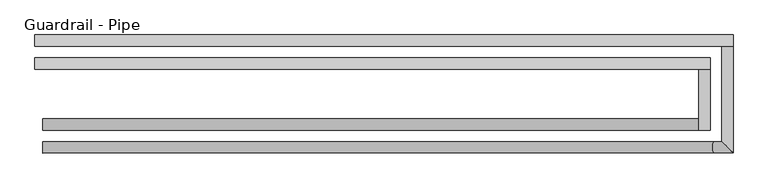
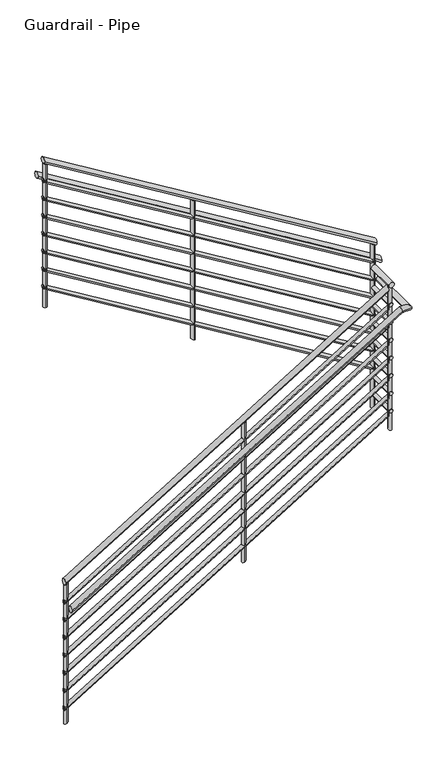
"""IFC4 building model written with IfcOpenShell, lengths in millimetres: railing geometry, Guardrail - Pipe."""

from ifc_helpers import new_model, si_unit, frame, origin, place, context, project, spatial, circle_curve, ellipse_curve, source, transform, mapped, element, save
from ifc_brep_helpers import plane_surface, cylinder_surface, advanced_brep


def guardrail_pipe_215c56c1(model_context):
    return source(origin(), model_context, "Body", "AdvancedBrep", [
        advanced_brep(
        [(-2909.3516552, 9300.527236, 1214.5008594), (-2909.3516552, 9338.627236, 1214.5008594), (-718.6016552, 9300.527236, 2547.4554048), (-718.6016552, 9338.627236, 2547.4554048)],
        [
            (0, 1, ellipse_curve(frame((-2909.3516552, 9319.577236, 1214.5008594), z_axis=(-1.0, 0.0, 0.0), x_axis=(0.0, 0.0, -1.0)), 22.2991406, 19.05)),
            (1, 0, ellipse_curve(frame((-2909.3516552, 9319.577236, 1214.5008594), z_axis=(-1.0, 0.0, 0.0), x_axis=(0.0, 0.0, -1.0)), 22.2991406, 19.05)),
            (2, 3, ellipse_curve(frame((-718.6016552, 9319.577236, 2547.4554048), z_axis=(1.0, 0.0, 0.0), x_axis=(0.0, 0.0, -1.0)), 22.2991406, 19.05)),
            (3, 2, ellipse_curve(frame((-718.6016552, 9319.577236, 2547.4554048), z_axis=(1.0, 0.0, 0.0), x_axis=(0.0, 0.0, -1.0)), 22.2991406, 19.05)),
            (0, 2),
            (3, 1),
        ],
        [
            plane_surface(frame((-2909.3516552, 9319.577236, 1236.8), z_axis=(-1.0, 0.0, 0.0), x_axis=(0.0, 1.0, 0.0))),
            plane_surface(frame((-718.6016552, 9319.577236, 2569.7545455), z_axis=(1.0, 0.0, 0.0), x_axis=(0.0, 1.0, 0.0))),
            cylinder_surface(frame((-2899.4496225, 9319.577236, 1220.5257181), z_axis=(-0.8542930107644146, 0.0, -0.5197917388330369), x_axis=(0.0, 1.0, 0.0)), 19.05),
        ],
        [
            (0, [[1, 2]]),
            (1, [[3, 4]]),
            (2, [[-1, 5, -4, 6]]),
            (2, [[-2, -6, -3, -5]]),
        ],
    ),
        advanced_brep(
        [(-680.5016552, 9300.527236, 2577.75), (-718.6016552, 9300.527236, 2577.75), (-680.5016552, 9503.727236, 2577.75), (-718.6016552, 9503.727236, 2577.75)],
        [
            (0, 1, circle_curve(frame((-699.5516552, 9300.527236, 2577.75), z_axis=(0.0, -1.0, 0.0), x_axis=(-1.0, 0.0, 0.0)), 19.05)),
            (1, 0, circle_curve(frame((-699.5516552, 9300.527236, 2577.75), z_axis=(0.0, -1.0, 0.0), x_axis=(-1.0, 0.0, 0.0)), 19.05)),
            (2, 3, circle_curve(frame((-699.5516552, 9503.727236, 2577.75), z_axis=(0.0, 1.0, 0.0), x_axis=(-1.0, 0.0, 0.0)), 19.05)),
            (3, 2, circle_curve(frame((-699.5516552, 9503.727236, 2577.75), z_axis=(0.0, 1.0, 0.0), x_axis=(-1.0, 0.0, 0.0)), 19.05)),
            (0, 2),
            (3, 1),
        ],
        [
            plane_surface(frame((-699.5516552, 9300.527236, 2596.8), z_axis=(0.0, -1.0, 0.0), x_axis=(0.0, 0.0, 1.0))),
            plane_surface(frame((-699.5516552, 9503.727236, 2596.8), z_axis=(0.0, 1.0, 0.0), x_axis=(0.0, 0.0, 1.0))),
            cylinder_surface(frame((-699.5516552, 9300.527236, 2577.75), z_axis=(0.0, -1.0, 0.0), x_axis=(-1.0, 0.0, 0.0)), 19.05),
        ],
        [
            (0, [[1, 2]]),
            (1, [[3, 4]]),
            (2, [[-1, 5, -4, 6]]),
            (2, [[-2, -6, -3, -5]]),
        ],
    ),
        advanced_brep(
        [(-680.5016552, 9541.827236, 2748.3644957), (-680.5016552, 9503.727236, 2748.3644957), (-2934.7516552, 9541.827236, 4119.9554048), (-2934.7516552, 9503.727236, 4119.9554048)],
        [
            (0, 1, ellipse_curve(frame((-680.5016552, 9522.777236, 2748.3644957), z_axis=(1.0, 0.0, 0.0), x_axis=(0.0, 0.0, -1.0)), 22.2991406, 19.05)),
            (1, 0, ellipse_curve(frame((-680.5016552, 9522.777236, 2748.3644957), z_axis=(1.0, 0.0, 0.0), x_axis=(0.0, 0.0, -1.0)), 22.2991406, 19.05)),
            (2, 3, ellipse_curve(frame((-2934.7516552, 9522.777236, 4119.9554048), z_axis=(-1.0, 0.0, 0.0), x_axis=(0.0, 0.0, -1.0)), 22.2991406, 19.05)),
            (3, 2, ellipse_curve(frame((-2934.7516552, 9522.777236, 4119.9554048), z_axis=(-1.0, 0.0, 0.0), x_axis=(0.0, 0.0, -1.0)), 22.2991406, 19.05)),
            (0, 2),
            (3, 1),
        ],
        [
            plane_surface(frame((-680.5016552, 9522.777236, 2770.6636364), z_axis=(1.0, 0.0, 0.0), x_axis=(0.0, -1.0, 0.0))),
            plane_surface(frame((-2934.7516552, 9522.777236, 4142.2545455), z_axis=(-1.0, 0.0, 0.0), x_axis=(0.0, -1.0, 0.0))),
            cylinder_surface(frame((-690.4036878, 9522.777236, 2754.3893545), z_axis=(0.8542930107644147, 0.0, -0.5197917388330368), x_axis=(0.0, -1.0, 0.0)), 19.05),
        ],
        [
            (0, [[1, 2]]),
            (1, [[3, 4]]),
            (2, [[-1, 5, -4, 6]]),
            (2, [[-2, -6, -3, -5]]),
        ],
    ),
        advanced_brep(
        [(-2909.3516552, 9306.877236, 1069.5339062), (-2909.3516552, 9332.277236, 1069.5339062), (-712.2516552, 9306.877236, 2406.3520881), (-712.2516552, 9332.277236, 2406.3520881)],
        [
            (0, 1, ellipse_curve(frame((-2909.3516552, 9319.577236, 1069.5339062), z_axis=(-1.0, 0.0, 0.0), x_axis=(0.0, 0.0, -1.0)), 14.8660938, 12.7)),
            (1, 0, ellipse_curve(frame((-2909.3516552, 9319.577236, 1069.5339062), z_axis=(-1.0, 0.0, 0.0), x_axis=(0.0, 0.0, -1.0)), 14.8660938, 12.7)),
            (2, 3, ellipse_curve(frame((-712.2516552, 9319.577236, 2406.3520881), z_axis=(1.0, 0.0, 0.0), x_axis=(0.0, 0.0, -1.0)), 14.8660938, 12.7)),
            (3, 2, ellipse_curve(frame((-712.2516552, 9319.577236, 2406.3520881), z_axis=(1.0, 0.0, 0.0), x_axis=(0.0, 0.0, -1.0)), 14.8660938, 12.7)),
            (0, 2),
            (3, 1),
        ],
        [
            plane_surface(frame((-2909.3516552, 9319.577236, 1084.4), z_axis=(-1.0, 0.0, 0.0), x_axis=(0.0, 1.0, 0.0))),
            plane_surface(frame((-712.2516552, 9319.577236, 2421.2181818), z_axis=(1.0, 0.0, 0.0), x_axis=(0.0, 1.0, 0.0))),
            cylinder_surface(frame((-2902.7503001, 9319.577236, 1073.5504788), z_axis=(-0.8542930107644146, 0.0, -0.5197917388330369), x_axis=(0.0, 1.0, 0.0)), 12.7),
        ],
        [
            (0, [[1, 2]]),
            (1, [[3, 4]]),
            (2, [[-1, 5, -4, 6]]),
            (2, [[-2, -6, -3, -5]]),
        ],
    ),
        advanced_brep(
        [(-686.8516552, 9306.877236, 2431.7), (-712.2516552, 9306.877236, 2431.7), (-686.8516552, 9510.077236, 2431.7), (-712.2516552, 9510.077236, 2431.7)],
        [
            (0, 1, circle_curve(frame((-699.5516552, 9306.877236, 2431.7), z_axis=(0.0, -1.0, 0.0), x_axis=(-1.0, 0.0, 0.0)), 12.7)),
            (1, 0, circle_curve(frame((-699.5516552, 9306.877236, 2431.7), z_axis=(0.0, -1.0, 0.0), x_axis=(-1.0, 0.0, 0.0)), 12.7)),
            (2, 3, circle_curve(frame((-699.5516552, 9510.077236, 2431.7), z_axis=(0.0, 1.0, 0.0), x_axis=(-1.0, 0.0, 0.0)), 12.7)),
            (3, 2, circle_curve(frame((-699.5516552, 9510.077236, 2431.7), z_axis=(0.0, 1.0, 0.0), x_axis=(-1.0, 0.0, 0.0)), 12.7)),
            (0, 2),
            (3, 1),
        ],
        [
            plane_surface(frame((-699.5516552, 9306.877236, 2444.4), z_axis=(0.0, -1.0, 0.0), x_axis=(0.0, 0.0, 1.0))),
            plane_surface(frame((-699.5516552, 9510.077236, 2444.4), z_axis=(0.0, 1.0, 0.0), x_axis=(0.0, 0.0, 1.0))),
            cylinder_surface(frame((-699.5516552, 9306.877236, 2431.7), z_axis=(0.0, -1.0, 0.0), x_axis=(-1.0, 0.0, 0.0)), 12.7),
        ],
        [
            (0, [[1, 2]]),
            (1, [[3, 4]]),
            (2, [[-1, 5, -4, 6]]),
            (2, [[-2, -6, -3, -5]]),
        ],
    ),
        advanced_brep(
        [(-686.8516552, 9535.477236, 2607.261179), (-686.8516552, 9510.077236, 2607.261179), (-2934.7516552, 9535.477236, 3974.9884517), (-2934.7516552, 9510.077236, 3974.9884517)],
        [
            (0, 1, ellipse_curve(frame((-686.8516552, 9522.777236, 2607.261179), z_axis=(1.0, 0.0, 0.0), x_axis=(0.0, 0.0, -1.0)), 14.8660938, 12.7)),
            (1, 0, ellipse_curve(frame((-686.8516552, 9522.777236, 2607.261179), z_axis=(1.0, 0.0, 0.0), x_axis=(0.0, 0.0, -1.0)), 14.8660938, 12.7)),
            (2, 3, ellipse_curve(frame((-2934.7516552, 9522.777236, 3974.9884517), z_axis=(-1.0, 0.0, 0.0), x_axis=(0.0, 0.0, -1.0)), 14.8660938, 12.7)),
            (3, 2, ellipse_curve(frame((-2934.7516552, 9522.777236, 3974.9884517), z_axis=(-1.0, 0.0, 0.0), x_axis=(0.0, 0.0, -1.0)), 14.8660938, 12.7)),
            (0, 2),
            (3, 1),
        ],
        [
            plane_surface(frame((-686.8516552, 9522.777236, 2622.1272727), z_axis=(1.0, 0.0, 0.0), x_axis=(0.0, -1.0, 0.0))),
            plane_surface(frame((-2934.7516552, 9522.777236, 3989.8545455), z_axis=(-1.0, 0.0, 0.0), x_axis=(0.0, -1.0, 0.0))),
            cylinder_surface(frame((-693.4530103, 9522.777236, 2611.2777515), z_axis=(0.8542930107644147, 0.0, -0.5197917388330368), x_axis=(0.0, -1.0, 0.0)), 12.7),
        ],
        [
            (0, [[1, 2]]),
            (1, [[3, 4]]),
            (2, [[-1, 5, -4, 6]]),
            (2, [[-2, -6, -3, -5]]),
        ],
    ),
        advanced_brep(
        [(-2909.3516552, 9224.327236, 1062.1008594), (-2909.3516552, 9262.427236, 1062.1008594), (-668.811597, 9224.327236, 2425.35), (-668.811597, 9262.427236, 2425.35), (-604.3016552, 9224.327236, 2425.35), (-642.4016552, 9262.427236, 2425.35), (-604.3016552, 9579.927236, 2425.35), (-642.4016552, 9579.927236, 2425.35)],
        [
            (0, 1, ellipse_curve(frame((-2909.3516552, 9243.377236, 1062.1008594), z_axis=(-1.0, 0.0, 0.0), x_axis=(0.0, 0.0, -1.0)), 22.2991406, 19.05)),
            (1, 0, ellipse_curve(frame((-2909.3516552, 9243.377236, 1062.1008594), z_axis=(-1.0, 0.0, 0.0), x_axis=(0.0, 0.0, -1.0)), 22.2991406, 19.05)),
            (0, 2),
            (2, 3, ellipse_curve(frame((-668.811597, 9243.377236, 2425.35), z_axis=(-0.9628844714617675, 0.0, -0.2699138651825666), x_axis=(0.2699138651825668, 0.0, -0.9628844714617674)), 19.7843049, 19.05)),
            (3, 1),
            (3, 2, ellipse_curve(frame((-668.811597, 9243.377236, 2425.35), z_axis=(-0.9628844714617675, 0.0, -0.2699138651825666), x_axis=(0.2699138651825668, 0.0, -0.9628844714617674)), 19.7843049, 19.05)),
            (2, 4),
            (4, 5, ellipse_curve(frame((-623.3516552, 9243.377236, 2425.35), z_axis=(-0.7071067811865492, -0.7071067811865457, 0.0), x_axis=(-0.7071067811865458, 0.7071067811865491, 0.0)), 26.9407684, 19.05)),
            (5, 3),
            (5, 4, ellipse_curve(frame((-623.3516552, 9243.377236, 2425.35), z_axis=(-0.7071067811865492, -0.7071067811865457, 0.0), x_axis=(-0.7071067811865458, 0.7071067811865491, 0.0)), 26.9407684, 19.05)),
            (6, 7, circle_curve(frame((-623.3516552, 9579.927236, 2425.35), z_axis=(0.0, 1.0, 0.0), x_axis=(-1.0, 0.0, 0.0)), 19.05)),
            (7, 6, circle_curve(frame((-623.3516552, 9579.927236, 2425.35), z_axis=(0.0, 1.0, 0.0), x_axis=(-1.0, 0.0, 0.0)), 19.05)),
            (4, 6),
            (7, 5),
        ],
        [
            plane_surface(frame((-2909.3516552, 9243.377236, 1084.4), z_axis=(-1.0, 0.0, 0.0), x_axis=(0.0, 1.0, 0.0))),
            cylinder_surface(frame((-2899.4496225, 9243.377236, 1068.1257181), z_axis=(-0.8542930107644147, 0.0, -0.5197917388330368), x_axis=(0.0, 1.0, 0.0)), 19.05),
            cylinder_surface(frame((-674.1516552, 9243.377236, 2425.35), z_axis=(-1.0, 0.0, 0.0), x_axis=(0.0, 1.0, 0.0)), 19.05),
            plane_surface(frame((-623.3516552, 9579.927236, 2444.4), z_axis=(0.0, 1.0, 0.0), x_axis=(0.0, 0.0, 1.0))),
            cylinder_surface(frame((-623.3516552, 9243.377236, 2425.35), z_axis=(0.0, -1.0, 0.0), x_axis=(-1.0, 0.0, 0.0)), 19.05),
        ],
        [
            (0, [[1, 2]]),
            (1, [[-1, 3, 4, 5]]),
            (1, [[-2, -5, 6, -3]]),
            (2, [[-4, 7, 8, 9]]),
            (2, [[-6, -9, 10, -7]]),
            (3, [[11, 12]]),
            (4, [[-8, 13, -12, 14]]),
            (4, [[-10, -14, -11, -13]]),
        ],
    ),
        advanced_brep(
        [(-604.3016552, 9618.027236, 2549.6008594), (-604.3016552, 9579.927236, 2549.6008594), (-2934.7516552, 9618.027236, 3967.5554048), (-2934.7516552, 9579.927236, 3967.5554048)],
        [
            (0, 1, ellipse_curve(frame((-604.3016552, 9598.977236, 2549.6008594), z_axis=(1.0, 0.0, 0.0), x_axis=(0.0, 0.0, -1.0)), 22.2991406, 19.05)),
            (1, 0, ellipse_curve(frame((-604.3016552, 9598.977236, 2549.6008594), z_axis=(1.0, 0.0, 0.0), x_axis=(0.0, 0.0, -1.0)), 22.2991406, 19.05)),
            (2, 3, ellipse_curve(frame((-2934.7516552, 9598.977236, 3967.5554048), z_axis=(-1.0, 0.0, 0.0), x_axis=(0.0, 0.0, -1.0)), 22.2991406, 19.05)),
            (3, 2, ellipse_curve(frame((-2934.7516552, 9598.977236, 3967.5554048), z_axis=(-1.0, 0.0, 0.0), x_axis=(0.0, 0.0, -1.0)), 22.2991406, 19.05)),
            (0, 2),
            (3, 1),
        ],
        [
            plane_surface(frame((-604.3016552, 9598.977236, 2571.9), z_axis=(1.0, 0.0, 0.0), x_axis=(0.0, -1.0, 0.0))),
            plane_surface(frame((-2934.7516552, 9598.977236, 3989.8545455), z_axis=(-1.0, 0.0, 0.0), x_axis=(0.0, -1.0, 0.0))),
            cylinder_surface(frame((-614.2036878, 9598.977236, 2555.6257181), z_axis=(0.8542930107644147, 0.0, -0.5197917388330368), x_axis=(0.0, -1.0, 0.0)), 19.05),
        ],
        [
            (0, [[1, 2]]),
            (1, [[3, 4]]),
            (2, [[-1, 5, -4, 6]]),
            (2, [[-2, -6, -3, -5]]),
        ],
    ),
        advanced_brep(
        [(-2909.3516552, 9306.877236, 942.5339062), (-2909.3516552, 9332.277236, 942.5339062), (-712.2516552, 9306.877236, 2279.3520881), (-712.2516552, 9332.277236, 2279.3520881)],
        [
            (0, 1, ellipse_curve(frame((-2909.3516552, 9319.577236, 942.5339062), z_axis=(-1.0, 0.0, 0.0), x_axis=(0.0, 0.0, -1.0)), 14.8660938, 12.7)),
            (1, 0, ellipse_curve(frame((-2909.3516552, 9319.577236, 942.5339062), z_axis=(-1.0, 0.0, 0.0), x_axis=(0.0, 0.0, -1.0)), 14.8660938, 12.7)),
            (2, 3, ellipse_curve(frame((-712.2516552, 9319.577236, 2279.3520881), z_axis=(1.0, 0.0, 0.0), x_axis=(0.0, 0.0, -1.0)), 14.8660938, 12.7)),
            (3, 2, ellipse_curve(frame((-712.2516552, 9319.577236, 2279.3520881), z_axis=(1.0, 0.0, 0.0), x_axis=(0.0, 0.0, -1.0)), 14.8660938, 12.7)),
            (0, 2),
            (3, 1),
        ],
        [
            plane_surface(frame((-2909.3516552, 9319.577236, 957.4), z_axis=(-1.0, 0.0, 0.0), x_axis=(0.0, 1.0, 0.0))),
            plane_surface(frame((-712.2516552, 9319.577236, 2294.2181818), z_axis=(1.0, 0.0, 0.0), x_axis=(0.0, 1.0, 0.0))),
            cylinder_surface(frame((-2902.7503001, 9319.577236, 946.5504788), z_axis=(-0.8542930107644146, 0.0, -0.5197917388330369), x_axis=(0.0, 1.0, 0.0)), 12.7),
        ],
        [
            (0, [[1, 2]]),
            (1, [[3, 4]]),
            (2, [[-1, 5, -4, 6]]),
            (2, [[-2, -6, -3, -5]]),
        ],
    ),
        advanced_brep(
        [(-686.8516552, 9306.877236, 2304.7), (-712.2516552, 9306.877236, 2304.7), (-686.8516552, 9510.077236, 2304.7), (-712.2516552, 9510.077236, 2304.7)],
        [
            (0, 1, circle_curve(frame((-699.5516552, 9306.877236, 2304.7), z_axis=(0.0, -1.0, 0.0), x_axis=(-1.0, 0.0, 0.0)), 12.7)),
            (1, 0, circle_curve(frame((-699.5516552, 9306.877236, 2304.7), z_axis=(0.0, -1.0, 0.0), x_axis=(-1.0, 0.0, 0.0)), 12.7)),
            (2, 3, circle_curve(frame((-699.5516552, 9510.077236, 2304.7), z_axis=(0.0, 1.0, 0.0), x_axis=(-1.0, 0.0, 0.0)), 12.7)),
            (3, 2, circle_curve(frame((-699.5516552, 9510.077236, 2304.7), z_axis=(0.0, 1.0, 0.0), x_axis=(-1.0, 0.0, 0.0)), 12.7)),
            (0, 2),
            (3, 1),
        ],
        [
            plane_surface(frame((-699.5516552, 9306.877236, 2317.4), z_axis=(0.0, -1.0, 0.0), x_axis=(0.0, 0.0, 1.0))),
            plane_surface(frame((-699.5516552, 9510.077236, 2317.4), z_axis=(0.0, 1.0, 0.0), x_axis=(0.0, 0.0, 1.0))),
            cylinder_surface(frame((-699.5516552, 9306.877236, 2304.7), z_axis=(0.0, -1.0, 0.0), x_axis=(-1.0, 0.0, 0.0)), 12.7),
        ],
        [
            (0, [[1, 2]]),
            (1, [[3, 4]]),
            (2, [[-1, 5, -4, 6]]),
            (2, [[-2, -6, -3, -5]]),
        ],
    ),
        advanced_brep(
        [(-686.8516552, 9535.477236, 2480.261179), (-686.8516552, 9510.077236, 2480.261179), (-2934.7516552, 9535.477236, 3847.9884517), (-2934.7516552, 9510.077236, 3847.9884517)],
        [
            (0, 1, ellipse_curve(frame((-686.8516552, 9522.777236, 2480.261179), z_axis=(1.0, 0.0, 0.0), x_axis=(0.0, 0.0, -1.0)), 14.8660938, 12.7)),
            (1, 0, ellipse_curve(frame((-686.8516552, 9522.777236, 2480.261179), z_axis=(1.0, 0.0, 0.0), x_axis=(0.0, 0.0, -1.0)), 14.8660938, 12.7)),
            (2, 3, ellipse_curve(frame((-2934.7516552, 9522.777236, 3847.9884517), z_axis=(-1.0, 0.0, 0.0), x_axis=(0.0, 0.0, -1.0)), 14.8660938, 12.7)),
            (3, 2, ellipse_curve(frame((-2934.7516552, 9522.777236, 3847.9884517), z_axis=(-1.0, 0.0, 0.0), x_axis=(0.0, 0.0, -1.0)), 14.8660938, 12.7)),
            (0, 2),
            (3, 1),
        ],
        [
            plane_surface(frame((-686.8516552, 9522.777236, 2495.1272727), z_axis=(1.0, 0.0, 0.0), x_axis=(0.0, -1.0, 0.0))),
            plane_surface(frame((-2934.7516552, 9522.777236, 3862.8545455), z_axis=(-1.0, 0.0, 0.0), x_axis=(0.0, -1.0, 0.0))),
            cylinder_surface(frame((-693.4530103, 9522.777236, 2484.2777515), z_axis=(0.8542930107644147, 0.0, -0.5197917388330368), x_axis=(0.0, -1.0, 0.0)), 12.7),
        ],
        [
            (0, [[1, 2]]),
            (1, [[3, 4]]),
            (2, [[-1, 5, -4, 6]]),
            (2, [[-2, -6, -3, -5]]),
        ],
    ),
        advanced_brep(
        [(-2909.3516552, 9306.877236, 815.5339062), (-2909.3516552, 9332.277236, 815.5339062), (-712.2516552, 9306.877236, 2152.3520881), (-712.2516552, 9332.277236, 2152.3520881)],
        [
            (0, 1, ellipse_curve(frame((-2909.3516552, 9319.577236, 815.5339062), z_axis=(-1.0, 0.0, 0.0), x_axis=(0.0, 0.0, -1.0)), 14.8660938, 12.7)),
            (1, 0, ellipse_curve(frame((-2909.3516552, 9319.577236, 815.5339062), z_axis=(-1.0, 0.0, 0.0), x_axis=(0.0, 0.0, -1.0)), 14.8660938, 12.7)),
            (2, 3, ellipse_curve(frame((-712.2516552, 9319.577236, 2152.3520881), z_axis=(1.0, 0.0, 0.0), x_axis=(0.0, 0.0, -1.0)), 14.8660938, 12.7)),
            (3, 2, ellipse_curve(frame((-712.2516552, 9319.577236, 2152.3520881), z_axis=(1.0, 0.0, 0.0), x_axis=(0.0, 0.0, -1.0)), 14.8660938, 12.7)),
            (0, 2),
            (3, 1),
        ],
        [
            plane_surface(frame((-2909.3516552, 9319.577236, 830.4), z_axis=(-1.0, 0.0, 0.0), x_axis=(0.0, 1.0, 0.0))),
            plane_surface(frame((-712.2516552, 9319.577236, 2167.2181818), z_axis=(1.0, 0.0, 0.0), x_axis=(0.0, 1.0, 0.0))),
            cylinder_surface(frame((-2902.7503001, 9319.577236, 819.5504788), z_axis=(-0.8542930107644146, 0.0, -0.5197917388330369), x_axis=(0.0, 1.0, 0.0)), 12.7),
        ],
        [
            (0, [[1, 2]]),
            (1, [[3, 4]]),
            (2, [[-1, 5, -4, 6]]),
            (2, [[-2, -6, -3, -5]]),
        ],
    ),
        advanced_brep(
        [(-686.8516552, 9306.877236, 2177.7), (-712.2516552, 9306.877236, 2177.7), (-686.8516552, 9510.077236, 2177.7), (-712.2516552, 9510.077236, 2177.7)],
        [
            (0, 1, circle_curve(frame((-699.5516552, 9306.877236, 2177.7), z_axis=(0.0, -1.0, 0.0), x_axis=(-1.0, 0.0, 0.0)), 12.7)),
            (1, 0, circle_curve(frame((-699.5516552, 9306.877236, 2177.7), z_axis=(0.0, -1.0, 0.0), x_axis=(-1.0, 0.0, 0.0)), 12.7)),
            (2, 3, circle_curve(frame((-699.5516552, 9510.077236, 2177.7), z_axis=(0.0, 1.0, 0.0), x_axis=(-1.0, 0.0, 0.0)), 12.7)),
            (3, 2, circle_curve(frame((-699.5516552, 9510.077236, 2177.7), z_axis=(0.0, 1.0, 0.0), x_axis=(-1.0, 0.0, 0.0)), 12.7)),
            (0, 2),
            (3, 1),
        ],
        [
            plane_surface(frame((-699.5516552, 9306.877236, 2190.4), z_axis=(0.0, -1.0, 0.0), x_axis=(0.0, 0.0, 1.0))),
            plane_surface(frame((-699.5516552, 9510.077236, 2190.4), z_axis=(0.0, 1.0, 0.0), x_axis=(0.0, 0.0, 1.0))),
            cylinder_surface(frame((-699.5516552, 9306.877236, 2177.7), z_axis=(0.0, -1.0, 0.0), x_axis=(-1.0, 0.0, 0.0)), 12.7),
        ],
        [
            (0, [[1, 2]]),
            (1, [[3, 4]]),
            (2, [[-1, 5, -4, 6]]),
            (2, [[-2, -6, -3, -5]]),
        ],
    ),
        advanced_brep(
        [(-686.8516552, 9535.477236, 2353.261179), (-686.8516552, 9510.077236, 2353.261179), (-2934.7516552, 9535.477236, 3720.9884517), (-2934.7516552, 9510.077236, 3720.9884517)],
        [
            (0, 1, ellipse_curve(frame((-686.8516552, 9522.777236, 2353.261179), z_axis=(1.0, 0.0, 0.0), x_axis=(0.0, 0.0, -1.0)), 14.8660938, 12.7)),
            (1, 0, ellipse_curve(frame((-686.8516552, 9522.777236, 2353.261179), z_axis=(1.0, 0.0, 0.0), x_axis=(0.0, 0.0, -1.0)), 14.8660938, 12.7)),
            (2, 3, ellipse_curve(frame((-2934.7516552, 9522.777236, 3720.9884517), z_axis=(-1.0, 0.0, 0.0), x_axis=(0.0, 0.0, -1.0)), 14.8660938, 12.7)),
            (3, 2, ellipse_curve(frame((-2934.7516552, 9522.777236, 3720.9884517), z_axis=(-1.0, 0.0, 0.0), x_axis=(0.0, 0.0, -1.0)), 14.8660938, 12.7)),
            (0, 2),
            (3, 1),
        ],
        [
            plane_surface(frame((-686.8516552, 9522.777236, 2368.1272727), z_axis=(1.0, 0.0, 0.0), x_axis=(0.0, -1.0, 0.0))),
            plane_surface(frame((-2934.7516552, 9522.777236, 3735.8545455), z_axis=(-1.0, 0.0, 0.0), x_axis=(0.0, -1.0, 0.0))),
            cylinder_surface(frame((-693.4530103, 9522.777236, 2357.2777515), z_axis=(0.8542930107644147, 0.0, -0.5197917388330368), x_axis=(0.0, -1.0, 0.0)), 12.7),
        ],
        [
            (0, [[1, 2]]),
            (1, [[3, 4]]),
            (2, [[-1, 5, -4, 6]]),
            (2, [[-2, -6, -3, -5]]),
        ],
    ),
        advanced_brep(
        [(-2909.3516552, 9306.877236, 688.5339062), (-2909.3516552, 9332.277236, 688.5339062), (-712.2516552, 9306.877236, 2025.3520881), (-712.2516552, 9332.277236, 2025.3520881)],
        [
            (0, 1, ellipse_curve(frame((-2909.3516552, 9319.577236, 688.5339062), z_axis=(-1.0, 0.0, 0.0), x_axis=(0.0, 0.0, -1.0)), 14.8660938, 12.7)),
            (1, 0, ellipse_curve(frame((-2909.3516552, 9319.577236, 688.5339062), z_axis=(-1.0, 0.0, 0.0), x_axis=(0.0, 0.0, -1.0)), 14.8660938, 12.7)),
            (2, 3, ellipse_curve(frame((-712.2516552, 9319.577236, 2025.3520881), z_axis=(1.0, 0.0, 0.0), x_axis=(0.0, 0.0, -1.0)), 14.8660938, 12.7)),
            (3, 2, ellipse_curve(frame((-712.2516552, 9319.577236, 2025.3520881), z_axis=(1.0, 0.0, 0.0), x_axis=(0.0, 0.0, -1.0)), 14.8660938, 12.7)),
            (0, 2),
            (3, 1),
        ],
        [
            plane_surface(frame((-2909.3516552, 9319.577236, 703.4), z_axis=(-1.0, 0.0, 0.0), x_axis=(0.0, 1.0, 0.0))),
            plane_surface(frame((-712.2516552, 9319.577236, 2040.2181818), z_axis=(1.0, 0.0, 0.0), x_axis=(0.0, 1.0, 0.0))),
            cylinder_surface(frame((-2902.7503001, 9319.577236, 692.5504788), z_axis=(-0.8542930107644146, 0.0, -0.5197917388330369), x_axis=(0.0, 1.0, 0.0)), 12.7),
        ],
        [
            (0, [[1, 2]]),
            (1, [[3, 4]]),
            (2, [[-1, 5, -4, 6]]),
            (2, [[-2, -6, -3, -5]]),
        ],
    ),
        advanced_brep(
        [(-686.8516552, 9306.877236, 2050.7), (-712.2516552, 9306.877236, 2050.7), (-686.8516552, 9510.077236, 2050.7), (-712.2516552, 9510.077236, 2050.7)],
        [
            (0, 1, circle_curve(frame((-699.5516552, 9306.877236, 2050.7), z_axis=(0.0, -1.0, 0.0), x_axis=(-1.0, 0.0, 0.0)), 12.7)),
            (1, 0, circle_curve(frame((-699.5516552, 9306.877236, 2050.7), z_axis=(0.0, -1.0, 0.0), x_axis=(-1.0, 0.0, 0.0)), 12.7)),
            (2, 3, circle_curve(frame((-699.5516552, 9510.077236, 2050.7), z_axis=(0.0, 1.0, 0.0), x_axis=(-1.0, 0.0, 0.0)), 12.7)),
            (3, 2, circle_curve(frame((-699.5516552, 9510.077236, 2050.7), z_axis=(0.0, 1.0, 0.0), x_axis=(-1.0, 0.0, 0.0)), 12.7)),
            (0, 2),
            (3, 1),
        ],
        [
            plane_surface(frame((-699.5516552, 9306.877236, 2063.4), z_axis=(0.0, -1.0, 0.0), x_axis=(0.0, 0.0, 1.0))),
            plane_surface(frame((-699.5516552, 9510.077236, 2063.4), z_axis=(0.0, 1.0, 0.0), x_axis=(0.0, 0.0, 1.0))),
            cylinder_surface(frame((-699.5516552, 9306.877236, 2050.7), z_axis=(0.0, -1.0, 0.0), x_axis=(-1.0, 0.0, 0.0)), 12.7),
        ],
        [
            (0, [[1, 2]]),
            (1, [[3, 4]]),
            (2, [[-1, 5, -4, 6]]),
            (2, [[-2, -6, -3, -5]]),
        ],
    ),
        advanced_brep(
        [(-686.8516552, 9535.477236, 2226.261179), (-686.8516552, 9510.077236, 2226.261179), (-2934.7516552, 9535.477236, 3593.9884517), (-2934.7516552, 9510.077236, 3593.9884517)],
        [
            (0, 1, ellipse_curve(frame((-686.8516552, 9522.777236, 2226.261179), z_axis=(1.0, 0.0, 0.0), x_axis=(0.0, 0.0, -1.0)), 14.8660938, 12.7)),
            (1, 0, ellipse_curve(frame((-686.8516552, 9522.777236, 2226.261179), z_axis=(1.0, 0.0, 0.0), x_axis=(0.0, 0.0, -1.0)), 14.8660938, 12.7)),
            (2, 3, ellipse_curve(frame((-2934.7516552, 9522.777236, 3593.9884517), z_axis=(-1.0, 0.0, 0.0), x_axis=(0.0, 0.0, -1.0)), 14.8660938, 12.7)),
            (3, 2, ellipse_curve(frame((-2934.7516552, 9522.777236, 3593.9884517), z_axis=(-1.0, 0.0, 0.0), x_axis=(0.0, 0.0, -1.0)), 14.8660938, 12.7)),
            (0, 2),
            (3, 1),
        ],
        [
            plane_surface(frame((-686.8516552, 9522.777236, 2241.1272727), z_axis=(1.0, 0.0, 0.0), x_axis=(0.0, -1.0, 0.0))),
            plane_surface(frame((-2934.7516552, 9522.777236, 3608.8545455), z_axis=(-1.0, 0.0, 0.0), x_axis=(0.0, -1.0, 0.0))),
            cylinder_surface(frame((-693.4530103, 9522.777236, 2230.2777515), z_axis=(0.8542930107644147, 0.0, -0.5197917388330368), x_axis=(0.0, -1.0, 0.0)), 12.7),
        ],
        [
            (0, [[1, 2]]),
            (1, [[3, 4]]),
            (2, [[-1, 5, -4, 6]]),
            (2, [[-2, -6, -3, -5]]),
        ],
    ),
        advanced_brep(
        [(-2909.3516552, 9306.877236, 561.5339062), (-2909.3516552, 9332.277236, 561.5339062), (-712.2516552, 9306.877236, 1898.3520881), (-712.2516552, 9332.277236, 1898.3520881)],
        [
            (0, 1, ellipse_curve(frame((-2909.3516552, 9319.577236, 561.5339062), z_axis=(-1.0, 0.0, 0.0), x_axis=(0.0, 0.0, -1.0)), 14.8660938, 12.7)),
            (1, 0, ellipse_curve(frame((-2909.3516552, 9319.577236, 561.5339062), z_axis=(-1.0, 0.0, 0.0), x_axis=(0.0, 0.0, -1.0)), 14.8660938, 12.7)),
            (2, 3, ellipse_curve(frame((-712.2516552, 9319.577236, 1898.3520881), z_axis=(1.0, 0.0, 0.0), x_axis=(0.0, 0.0, -1.0)), 14.8660938, 12.7)),
            (3, 2, ellipse_curve(frame((-712.2516552, 9319.577236, 1898.3520881), z_axis=(1.0, 0.0, 0.0), x_axis=(0.0, 0.0, -1.0)), 14.8660938, 12.7)),
            (0, 2),
            (3, 1),
        ],
        [
            plane_surface(frame((-2909.3516552, 9319.577236, 576.4), z_axis=(-1.0, 0.0, 0.0), x_axis=(0.0, 1.0, 0.0))),
            plane_surface(frame((-712.2516552, 9319.577236, 1913.2181818), z_axis=(1.0, 0.0, 0.0), x_axis=(0.0, 1.0, 0.0))),
            cylinder_surface(frame((-2902.7503001, 9319.577236, 565.5504788), z_axis=(-0.8542930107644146, 0.0, -0.5197917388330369), x_axis=(0.0, 1.0, 0.0)), 12.7),
        ],
        [
            (0, [[1, 2]]),
            (1, [[3, 4]]),
            (2, [[-1, 5, -4, 6]]),
            (2, [[-2, -6, -3, -5]]),
        ],
    ),
        advanced_brep(
        [(-686.8516552, 9306.877236, 1923.7), (-712.2516552, 9306.877236, 1923.7), (-686.8516552, 9510.077236, 1923.7), (-712.2516552, 9510.077236, 1923.7)],
        [
            (0, 1, circle_curve(frame((-699.5516552, 9306.877236, 1923.7), z_axis=(0.0, -1.0, 0.0), x_axis=(-1.0, 0.0, 0.0)), 12.7)),
            (1, 0, circle_curve(frame((-699.5516552, 9306.877236, 1923.7), z_axis=(0.0, -1.0, 0.0), x_axis=(-1.0, 0.0, 0.0)), 12.7)),
            (2, 3, circle_curve(frame((-699.5516552, 9510.077236, 1923.7), z_axis=(0.0, 1.0, 0.0), x_axis=(-1.0, 0.0, 0.0)), 12.7)),
            (3, 2, circle_curve(frame((-699.5516552, 9510.077236, 1923.7), z_axis=(0.0, 1.0, 0.0), x_axis=(-1.0, 0.0, 0.0)), 12.7)),
            (0, 2),
            (3, 1),
        ],
        [
            plane_surface(frame((-699.5516552, 9306.877236, 1936.4), z_axis=(0.0, -1.0, 0.0), x_axis=(0.0, 0.0, 1.0))),
            plane_surface(frame((-699.5516552, 9510.077236, 1936.4), z_axis=(0.0, 1.0, 0.0), x_axis=(0.0, 0.0, 1.0))),
            cylinder_surface(frame((-699.5516552, 9306.877236, 1923.7), z_axis=(0.0, -1.0, 0.0), x_axis=(-1.0, 0.0, 0.0)), 12.7),
        ],
        [
            (0, [[1, 2]]),
            (1, [[3, 4]]),
            (2, [[-1, 5, -4, 6]]),
            (2, [[-2, -6, -3, -5]]),
        ],
    ),
        advanced_brep(
        [(-686.8516552, 9535.477236, 2099.261179), (-686.8516552, 9510.077236, 2099.261179), (-2934.7516552, 9535.477236, 3466.9884517), (-2934.7516552, 9510.077236, 3466.9884517)],
        [
            (0, 1, ellipse_curve(frame((-686.8516552, 9522.777236, 2099.261179), z_axis=(1.0, 0.0, 0.0), x_axis=(0.0, 0.0, -1.0)), 14.8660938, 12.7)),
            (1, 0, ellipse_curve(frame((-686.8516552, 9522.777236, 2099.261179), z_axis=(1.0, 0.0, 0.0), x_axis=(0.0, 0.0, -1.0)), 14.8660938, 12.7)),
            (2, 3, ellipse_curve(frame((-2934.7516552, 9522.777236, 3466.9884517), z_axis=(-1.0, 0.0, 0.0), x_axis=(0.0, 0.0, -1.0)), 14.8660938, 12.7)),
            (3, 2, ellipse_curve(frame((-2934.7516552, 9522.777236, 3466.9884517), z_axis=(-1.0, 0.0, 0.0), x_axis=(0.0, 0.0, -1.0)), 14.8660938, 12.7)),
            (0, 2),
            (3, 1),
        ],
        [
            plane_surface(frame((-686.8516552, 9522.777236, 2114.1272727), z_axis=(1.0, 0.0, 0.0), x_axis=(0.0, -1.0, 0.0))),
            plane_surface(frame((-2934.7516552, 9522.777236, 3481.8545455), z_axis=(-1.0, 0.0, 0.0), x_axis=(0.0, -1.0, 0.0))),
            cylinder_surface(frame((-693.4530103, 9522.777236, 2103.2777515), z_axis=(0.8542930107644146, 0.0, -0.5197917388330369), x_axis=(0.0, -1.0, 0.0)), 12.7),
        ],
        [
            (0, [[1, 2]]),
            (1, [[3, 4]]),
            (2, [[-1, 5, -4, 6]]),
            (2, [[-2, -6, -3, -5]]),
        ],
    ),
        advanced_brep(
        [(-2909.3516552, 9306.877236, 434.5339062), (-2909.3516552, 9332.277236, 434.5339062), (-712.2516552, 9306.877236, 1771.3520881), (-712.2516552, 9332.277236, 1771.3520881)],
        [
            (0, 1, ellipse_curve(frame((-2909.3516552, 9319.577236, 434.5339062), z_axis=(-1.0, 0.0, 0.0), x_axis=(0.0, 0.0, -1.0)), 14.8660938, 12.7)),
            (1, 0, ellipse_curve(frame((-2909.3516552, 9319.577236, 434.5339062), z_axis=(-1.0, 0.0, 0.0), x_axis=(0.0, 0.0, -1.0)), 14.8660938, 12.7)),
            (2, 3, ellipse_curve(frame((-712.2516552, 9319.577236, 1771.3520881), z_axis=(1.0, 0.0, 0.0), x_axis=(0.0, 0.0, -1.0)), 14.8660938, 12.7)),
            (3, 2, ellipse_curve(frame((-712.2516552, 9319.577236, 1771.3520881), z_axis=(1.0, 0.0, 0.0), x_axis=(0.0, 0.0, -1.0)), 14.8660938, 12.7)),
            (0, 2),
            (3, 1),
        ],
        [
            plane_surface(frame((-2909.3516552, 9319.577236, 449.4), z_axis=(-1.0, 0.0, 0.0), x_axis=(0.0, 1.0, 0.0))),
            plane_surface(frame((-712.2516552, 9319.577236, 1786.2181818), z_axis=(1.0, 0.0, 0.0), x_axis=(0.0, 1.0, 0.0))),
            cylinder_surface(frame((-2902.7503001, 9319.577236, 438.5504788), z_axis=(-0.8542930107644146, 0.0, -0.5197917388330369), x_axis=(0.0, 1.0, 0.0)), 12.7),
        ],
        [
            (0, [[1, 2]]),
            (1, [[3, 4]]),
            (2, [[-1, 5, -4, 6]]),
            (2, [[-2, -6, -3, -5]]),
        ],
    ),
        advanced_brep(
        [(-686.8516552, 9306.877236, 1796.7), (-712.2516552, 9306.877236, 1796.7), (-686.8516552, 9510.077236, 1796.7), (-712.2516552, 9510.077236, 1796.7)],
        [
            (0, 1, circle_curve(frame((-699.5516552, 9306.877236, 1796.7), z_axis=(0.0, -1.0, 0.0), x_axis=(-1.0, 0.0, 0.0)), 12.7)),
            (1, 0, circle_curve(frame((-699.5516552, 9306.877236, 1796.7), z_axis=(0.0, -1.0, 0.0), x_axis=(-1.0, 0.0, 0.0)), 12.7)),
            (2, 3, circle_curve(frame((-699.5516552, 9510.077236, 1796.7), z_axis=(0.0, 1.0, 0.0), x_axis=(-1.0, 0.0, 0.0)), 12.7)),
            (3, 2, circle_curve(frame((-699.5516552, 9510.077236, 1796.7), z_axis=(0.0, 1.0, 0.0), x_axis=(-1.0, 0.0, 0.0)), 12.7)),
            (0, 2),
            (3, 1),
        ],
        [
            plane_surface(frame((-699.5516552, 9306.877236, 1809.4), z_axis=(0.0, -1.0, 0.0), x_axis=(0.0, 0.0, 1.0))),
            plane_surface(frame((-699.5516552, 9510.077236, 1809.4), z_axis=(0.0, 1.0, 0.0), x_axis=(0.0, 0.0, 1.0))),
            cylinder_surface(frame((-699.5516552, 9306.877236, 1796.7), z_axis=(0.0, -1.0, 0.0), x_axis=(-1.0, 0.0, 0.0)), 12.7),
        ],
        [
            (0, [[1, 2]]),
            (1, [[3, 4]]),
            (2, [[-1, 5, -4, 6]]),
            (2, [[-2, -6, -3, -5]]),
        ],
    ),
        advanced_brep(
        [(-686.8516552, 9535.477236, 1972.261179), (-686.8516552, 9510.077236, 1972.261179), (-2934.7516552, 9535.477236, 3339.9884517), (-2934.7516552, 9510.077236, 3339.9884517)],
        [
            (0, 1, ellipse_curve(frame((-686.8516552, 9522.777236, 1972.261179), z_axis=(1.0, 0.0, 0.0), x_axis=(0.0, 0.0, -1.0)), 14.8660938, 12.7)),
            (1, 0, ellipse_curve(frame((-686.8516552, 9522.777236, 1972.261179), z_axis=(1.0, 0.0, 0.0), x_axis=(0.0, 0.0, -1.0)), 14.8660938, 12.7)),
            (2, 3, ellipse_curve(frame((-2934.7516552, 9522.777236, 3339.9884517), z_axis=(-1.0, 0.0, 0.0), x_axis=(0.0, 0.0, -1.0)), 14.8660938, 12.7)),
            (3, 2, ellipse_curve(frame((-2934.7516552, 9522.777236, 3339.9884517), z_axis=(-1.0, 0.0, 0.0), x_axis=(0.0, 0.0, -1.0)), 14.8660938, 12.7)),
            (0, 2),
            (3, 1),
        ],
        [
            plane_surface(frame((-686.8516552, 9522.777236, 1987.1272727), z_axis=(1.0, 0.0, 0.0), x_axis=(0.0, -1.0, 0.0))),
            plane_surface(frame((-2934.7516552, 9522.777236, 3354.8545455), z_axis=(-1.0, 0.0, 0.0), x_axis=(0.0, -1.0, 0.0))),
            cylinder_surface(frame((-693.4530103, 9522.777236, 1976.2777515), z_axis=(0.8542930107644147, 0.0, -0.5197917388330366), x_axis=(0.0, -1.0, 0.0)), 12.7),
        ],
        [
            (0, [[1, 2]]),
            (1, [[3, 4]]),
            (2, [[-1, 5, -4, 6]]),
            (2, [[-2, -6, -3, -5]]),
        ],
    ),
        advanced_brep(
        [(-2909.3516552, 9306.877236, 307.5339062), (-2909.3516552, 9332.277236, 307.5339062), (-712.2516552, 9306.877236, 1644.3520881), (-712.2516552, 9332.277236, 1644.3520881)],
        [
            (0, 1, ellipse_curve(frame((-2909.3516552, 9319.577236, 307.5339062), z_axis=(-1.0, 0.0, 0.0), x_axis=(0.0, 0.0, -1.0)), 14.8660938, 12.7)),
            (1, 0, ellipse_curve(frame((-2909.3516552, 9319.577236, 307.5339062), z_axis=(-1.0, 0.0, 0.0), x_axis=(0.0, 0.0, -1.0)), 14.8660938, 12.7)),
            (2, 3, ellipse_curve(frame((-712.2516552, 9319.577236, 1644.3520881), z_axis=(1.0, 0.0, 0.0), x_axis=(0.0, 0.0, -1.0)), 14.8660938, 12.7)),
            (3, 2, ellipse_curve(frame((-712.2516552, 9319.577236, 1644.3520881), z_axis=(1.0, 0.0, 0.0), x_axis=(0.0, 0.0, -1.0)), 14.8660938, 12.7)),
            (0, 2),
            (3, 1),
        ],
        [
            plane_surface(frame((-2909.3516552, 9319.577236, 322.4), z_axis=(-1.0, 0.0, 0.0), x_axis=(0.0, 1.0, 0.0))),
            plane_surface(frame((-712.2516552, 9319.577236, 1659.2181818), z_axis=(1.0, 0.0, 0.0), x_axis=(0.0, 1.0, 0.0))),
            cylinder_surface(frame((-2902.7503001, 9319.577236, 311.5504788), z_axis=(-0.8542930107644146, 0.0, -0.5197917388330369), x_axis=(0.0, 1.0, 0.0)), 12.7),
        ],
        [
            (0, [[1, 2]]),
            (1, [[3, 4]]),
            (2, [[-1, 5, -4, 6]]),
            (2, [[-2, -6, -3, -5]]),
        ],
    ),
        advanced_brep(
        [(-686.8516552, 9306.877236, 1669.7), (-712.2516552, 9306.877236, 1669.7), (-686.8516552, 9510.077236, 1669.7), (-712.2516552, 9510.077236, 1669.7)],
        [
            (0, 1, circle_curve(frame((-699.5516552, 9306.877236, 1669.7), z_axis=(0.0, -1.0, 0.0), x_axis=(-1.0, 0.0, 0.0)), 12.7)),
            (1, 0, circle_curve(frame((-699.5516552, 9306.877236, 1669.7), z_axis=(0.0, -1.0, 0.0), x_axis=(-1.0, 0.0, 0.0)), 12.7)),
            (2, 3, circle_curve(frame((-699.5516552, 9510.077236, 1669.7), z_axis=(0.0, 1.0, 0.0), x_axis=(-1.0, 0.0, 0.0)), 12.7)),
            (3, 2, circle_curve(frame((-699.5516552, 9510.077236, 1669.7), z_axis=(0.0, 1.0, 0.0), x_axis=(-1.0, 0.0, 0.0)), 12.7)),
            (0, 2),
            (3, 1),
        ],
        [
            plane_surface(frame((-699.5516552, 9306.877236, 1682.4), z_axis=(0.0, -1.0, 0.0), x_axis=(0.0, 0.0, 1.0))),
            plane_surface(frame((-699.5516552, 9510.077236, 1682.4), z_axis=(0.0, 1.0, 0.0), x_axis=(0.0, 0.0, 1.0))),
            cylinder_surface(frame((-699.5516552, 9306.877236, 1669.7), z_axis=(0.0, -1.0, 0.0), x_axis=(-1.0, 0.0, 0.0)), 12.7),
        ],
        [
            (0, [[1, 2]]),
            (1, [[3, 4]]),
            (2, [[-1, 5, -4, 6]]),
            (2, [[-2, -6, -3, -5]]),
        ],
    ),
        advanced_brep(
        [(-686.8516552, 9535.477236, 1845.261179), (-686.8516552, 9510.077236, 1845.261179), (-2934.7516552, 9535.477236, 3212.9884517), (-2934.7516552, 9510.077236, 3212.9884517)],
        [
            (0, 1, ellipse_curve(frame((-686.8516552, 9522.777236, 1845.261179), z_axis=(1.0, 0.0, 0.0), x_axis=(0.0, 0.0, -1.0)), 14.8660938, 12.7)),
            (1, 0, ellipse_curve(frame((-686.8516552, 9522.777236, 1845.261179), z_axis=(1.0, 0.0, 0.0), x_axis=(0.0, 0.0, -1.0)), 14.8660938, 12.7)),
            (2, 3, ellipse_curve(frame((-2934.7516552, 9522.777236, 3212.9884517), z_axis=(-1.0, 0.0, 0.0), x_axis=(0.0, 0.0, -1.0)), 14.8660938, 12.7)),
            (3, 2, ellipse_curve(frame((-2934.7516552, 9522.777236, 3212.9884517), z_axis=(-1.0, 0.0, 0.0), x_axis=(0.0, 0.0, -1.0)), 14.8660938, 12.7)),
            (0, 2),
            (3, 1),
        ],
        [
            plane_surface(frame((-686.8516552, 9522.777236, 1860.1272727), z_axis=(1.0, 0.0, 0.0), x_axis=(0.0, -1.0, 0.0))),
            plane_surface(frame((-2934.7516552, 9522.777236, 3227.8545455), z_axis=(-1.0, 0.0, 0.0), x_axis=(0.0, -1.0, 0.0))),
            cylinder_surface(frame((-693.4530103, 9522.777236, 1849.2777515), z_axis=(0.8542930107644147, 0.0, -0.5197917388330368), x_axis=(0.0, -1.0, 0.0)), 12.7),
        ],
        [
            (0, [[1, 2]]),
            (1, [[3, 4]]),
            (2, [[-1, 5, -4, 6]]),
            (2, [[-2, -6, -3, -5]]),
        ],
    ),
        advanced_brep(
        [(-1918.7516552, 9510.077236, 3479.474446), (-1918.7516552, 9535.477236, 3479.474446), (-1918.7516552, 9535.477236, 2483.4689359), (-1918.7516552, 9510.077236, 2483.4689359)],
        [
            (0, 1, ellipse_curve(frame((-1918.7516552, 9522.777236, 3479.474446), z_axis=(-0.5197917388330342, 0.0, -0.8542930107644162), x_axis=(-0.8542930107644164, 0.0, 0.5197917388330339)), 14.8660938, 12.7)),
            (1, 2),
            (2, 3, ellipse_curve(frame((-1918.7516552, 9522.777236, 2483.4689359), z_axis=(0.5197917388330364, 0.0, 0.8542930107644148), x_axis=(-0.8542930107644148, 0.0, 0.5197917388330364)), 14.8660938, 12.7)),
            (3, 0),
            (3, 2, ellipse_curve(frame((-1918.7516552, 9522.777236, 2483.4689359), z_axis=(0.5197917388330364, 0.0, 0.8542930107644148), x_axis=(-0.8542930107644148, 0.0, 0.5197917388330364)), 14.8660938, 12.7)),
            (1, 0, ellipse_curve(frame((-1918.7516552, 9522.777236, 3479.474446), z_axis=(-0.5197917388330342, 0.0, -0.8542930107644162), x_axis=(-0.8542930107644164, 0.0, 0.5197917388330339)), 14.8660938, 12.7)),
        ],
        [
            cylinder_surface(frame((-1918.7516552, 9522.777236, 2254.8689359), z_axis=(0.0, 0.0, 1.0), x_axis=(0.0, 1.0, 0.0)), 12.7),
            plane_surface(frame((-1944.1516552, 9548.177236, 3494.9289914), z_axis=(0.5197917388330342, 0.0, 0.8542930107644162), x_axis=(0.0, -1.0, 0.0))),
            plane_surface(frame((-1893.3516552, 9548.177236, 2468.0143904), z_axis=(-0.5197917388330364, 0.0, -0.8542930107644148), x_axis=(0.0, -1.0, 0.0))),
        ],
        [
            (0, [[1, 2, 3, 4]]),
            (0, [[5, -2, 6, -4]]),
            (1, [[-6, -1]]),
            (2, [[-5, -3]]),
        ],
    ),
        advanced_brep(
        [(-1690.1516552, 9332.277236, 1934.0199005), (-1690.1516552, 9306.877236, 1934.0199005), (-1690.1516552, 9306.877236, 938.0143904), (-1690.1516552, 9332.277236, 938.0143904)],
        [
            (0, 1, ellipse_curve(frame((-1690.1516552, 9319.577236, 1934.0199005), z_axis=(0.5197917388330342, 0.0, -0.8542930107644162), x_axis=(0.8542930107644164, 0.0, 0.5197917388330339)), 14.8660938, 12.7)),
            (1, 2),
            (2, 3, ellipse_curve(frame((-1690.1516552, 9319.577236, 938.0143904), z_axis=(-0.5197917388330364, 0.0, 0.8542930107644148), x_axis=(0.8542930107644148, 0.0, 0.5197917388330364)), 14.8660938, 12.7)),
            (3, 0),
            (3, 2, ellipse_curve(frame((-1690.1516552, 9319.577236, 938.0143904), z_axis=(-0.5197917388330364, 0.0, 0.8542930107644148), x_axis=(0.8542930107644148, 0.0, 0.5197917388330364)), 14.8660938, 12.7)),
            (1, 0, ellipse_curve(frame((-1690.1516552, 9319.577236, 1934.0199005), z_axis=(0.5197917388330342, 0.0, -0.8542930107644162), x_axis=(0.8542930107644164, 0.0, 0.5197917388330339)), 14.8660938, 12.7)),
        ],
        [
            cylinder_surface(frame((-1690.1516552, 9319.577236, 709.4143904), z_axis=(0.0, 0.0, 1.0), x_axis=(0.0, -1.0, 0.0)), 12.7),
            plane_surface(frame((-1664.7516552, 9294.177236, 1949.474446), z_axis=(-0.5197917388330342, 0.0, 0.8542930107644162), x_axis=(0.0, 1.0, 0.0))),
            plane_surface(frame((-1715.5516552, 9294.177236, 922.5598449), z_axis=(0.5197917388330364, 0.0, -0.8542930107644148), x_axis=(0.0, 1.0, 0.0))),
        ],
        [
            (0, [[1, 2, 3, 4]]),
            (0, [[5, -2, 6, -4]]),
            (1, [[-6, -1]]),
            (2, [[-5, -3]]),
        ],
    ),
        advanced_brep(
        [(-699.5516552, 9510.077236, 2737.6562642), (-699.5516552, 9535.477236, 2737.6562642), (-699.5516552, 9535.477236, 1571.275), (-699.5516552, 9510.077236, 1571.275)],
        [
            (0, 1, ellipse_curve(frame((-699.5516552, 9522.777236, 2737.6562642), z_axis=(-0.5197917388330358, 0.0, -0.8542930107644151), x_axis=(-0.8542930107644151, 0.0, 0.5197917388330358)), 14.8660938, 12.7)),
            (1, 2),
            (2, 3, circle_curve(frame((-699.5516552, 9522.777236, 1571.275), z_axis=(0.0, 0.0, 1.0), x_axis=(0.0, 1.0, 0.0)), 12.7)),
            (3, 0),
            (3, 2, circle_curve(frame((-699.5516552, 9522.777236, 1571.275), z_axis=(0.0, 0.0, 1.0), x_axis=(0.0, 1.0, 0.0)), 12.7)),
            (1, 0, ellipse_curve(frame((-699.5516552, 9522.777236, 2737.6562642), z_axis=(-0.5197917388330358, 0.0, -0.8542930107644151), x_axis=(-0.8542930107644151, 0.0, 0.5197917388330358)), 14.8660938, 12.7)),
        ],
        [
            cylinder_surface(frame((-699.5516552, 9522.777236, 1342.675), z_axis=(0.0, 0.0, 1.0), x_axis=(0.0, 1.0, 0.0)), 12.7),
            plane_surface(frame((-724.9516552, 9548.177236, 2753.1108096), z_axis=(0.5197917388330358, 0.0, 0.8542930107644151), x_axis=(0.0, -1.0, 0.0))),
            plane_surface(frame((-674.1516552, 9548.177236, 1571.275), z_axis=(0.0, 0.0, -1.0), x_axis=(0.0, -1.0, 0.0))),
        ],
        [
            (0, [[1, 2, 3, 4]]),
            (0, [[5, -2, 6, -4]]),
            (1, [[-6, -1]]),
            (2, [[-5, -3]]),
        ],
    ),
        advanced_brep(
        [(-712.2516552, 9319.577236, 2558.7), (-686.8516552, 9319.577236, 2558.7), (-686.8516552, 9319.577236, 1540.7416631), (-712.2516552, 9319.577236, 1540.7416631)],
        [
            (0, 1, circle_curve(frame((-699.5516552, 9319.577236, 2558.7), z_axis=(0.0, 0.0, -1.0), x_axis=(1.0, 0.0, 0.0)), 12.7)),
            (1, 2),
            (2, 3, ellipse_curve(frame((-699.5516552, 9319.577236, 1540.7416631), z_axis=(0.0, -0.5197917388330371, 0.8542930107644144), x_axis=(0.0, 0.8542930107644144, 0.5197917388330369)), 14.8660938, 12.7)),
            (3, 0),
            (3, 2, ellipse_curve(frame((-699.5516552, 9319.577236, 1540.7416631), z_axis=(0.0, -0.5197917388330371, 0.8542930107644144), x_axis=(0.0, 0.8542930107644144, 0.5197917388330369)), 14.8660938, 12.7)),
            (1, 0, circle_curve(frame((-699.5516552, 9319.577236, 2558.7), z_axis=(0.0, 0.0, -1.0), x_axis=(1.0, 0.0, 0.0)), 12.7)),
        ],
        [
            cylinder_surface(frame((-699.5516552, 9319.577236, 1312.1416631), z_axis=(0.0, 0.0, 1.0), x_axis=(1.0, 0.0, 0.0)), 12.7),
            plane_surface(frame((-674.1516552, 9344.977236, 2558.7), z_axis=(0.0, 0.0, 1.0), x_axis=(-1.0, 0.0, 0.0))),
            plane_surface(frame((-674.1516552, 9294.177236, 1525.2871177), z_axis=(0.0, 0.5197917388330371, -0.8542930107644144), x_axis=(-1.0, 0.0, 0.0))),
        ],
        [
            (0, [[1, 2, 3, 4]]),
            (0, [[5, -2, 6, -4]]),
            (1, [[-6, -1]]),
            (2, [[-5, -3]]),
        ],
    ),
        advanced_brep(
        [(-2922.0516552, 9510.077236, 4089.9761775), (-2922.0516552, 9535.477236, 4089.9761775), (-2922.0516552, 9535.477236, 3067.7272727), (-2922.0516552, 9510.077236, 3067.7272727)],
        [
            (0, 1, ellipse_curve(frame((-2922.0516552, 9522.777236, 4089.9761775), z_axis=(-0.5183017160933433, 0.0, -0.8551978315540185), x_axis=(-0.8551978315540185, 0.0, 0.5183017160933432)), 14.8503651, 12.7)),
            (1, 2),
            (2, 3, circle_curve(frame((-2922.0516552, 9522.777236, 3067.7272727), z_axis=(0.0, 0.0, 1.0), x_axis=(0.0, 1.0, 0.0)), 12.7)),
            (3, 0),
            (3, 2, circle_curve(frame((-2922.0516552, 9522.777236, 3067.7272727), z_axis=(0.0, 0.0, 1.0), x_axis=(0.0, 1.0, 0.0)), 12.7)),
            (1, 0, ellipse_curve(frame((-2922.0516552, 9522.777236, 4089.9761775), z_axis=(-0.5183017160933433, 0.0, -0.8551978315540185), x_axis=(-0.8551978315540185, 0.0, 0.5183017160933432)), 14.8503651, 12.7)),
        ],
        [
            cylinder_surface(frame((-2922.0516552, 9522.777236, 2839.1272727), z_axis=(0.0, 0.0, 1.0), x_axis=(0.0, 1.0, 0.0)), 12.7),
            plane_surface(frame((-2947.4516552, 9548.177236, 4105.3701169), z_axis=(0.5183017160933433, 0.0, 0.8551978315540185), x_axis=(0.0, -1.0, 0.0))),
            plane_surface(frame((-2896.6516552, 9548.177236, 3067.7272727), z_axis=(0.0, 0.0, -1.0), x_axis=(0.0, -1.0, 0.0))),
        ],
        [
            (0, [[1, 2, 3, 4]]),
            (0, [[5, -2, 6, -4]]),
            (1, [[-6, -1]]),
            (2, [[-5, -3]]),
        ],
    ),
        advanced_brep(
        [(-2896.6516552, 9332.277236, 1199.9289914), (-2896.6516552, 9306.877236, 1199.9289914), (-2896.6516552, 9306.877236, 203.9234813), (-2896.6516552, 9332.277236, 203.9234813)],
        [
            (0, 1, ellipse_curve(frame((-2896.6516552, 9319.577236, 1199.9289914), z_axis=(0.5197917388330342, 0.0, -0.8542930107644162), x_axis=(0.8542930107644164, 0.0, 0.5197917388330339)), 14.8660938, 12.7)),
            (1, 2),
            (2, 3, ellipse_curve(frame((-2896.6516552, 9319.577236, 203.9234813), z_axis=(-0.5197917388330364, 0.0, 0.8542930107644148), x_axis=(0.8542930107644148, 0.0, 0.5197917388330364)), 14.8660938, 12.7)),
            (3, 0),
            (3, 2, ellipse_curve(frame((-2896.6516552, 9319.577236, 203.9234813), z_axis=(-0.5197917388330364, 0.0, 0.8542930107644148), x_axis=(0.8542930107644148, 0.0, 0.5197917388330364)), 14.8660938, 12.7)),
            (1, 0, ellipse_curve(frame((-2896.6516552, 9319.577236, 1199.9289914), z_axis=(0.5197917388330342, 0.0, -0.8542930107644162), x_axis=(0.8542930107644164, 0.0, 0.5197917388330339)), 14.8660938, 12.7)),
        ],
        [
            cylinder_surface(frame((-2896.6516552, 9319.577236, -24.6765187), z_axis=(0.0, 0.0, 1.0), x_axis=(0.0, -1.0, 0.0)), 12.7),
            plane_surface(frame((-2871.2516552, 9294.177236, 1215.3835369), z_axis=(-0.5197917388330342, 0.0, 0.8542930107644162), x_axis=(0.0, 1.0, 0.0))),
            plane_surface(frame((-2922.0516552, 9294.177236, 188.4689359), z_axis=(0.5197917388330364, 0.0, -0.8542930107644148), x_axis=(0.0, 1.0, 0.0))),
        ],
        [
            (0, [[1, 2, 3, 4]]),
            (0, [[5, -2, 6, -4]]),
            (1, [[-6, -1]]),
            (2, [[-5, -3]]),
        ],
    ),
    ])


if __name__ == "__main__":
    model = new_model("IFC4")
    model_context = context("Model", 3, world=origin())
    ifc_project = project(units=[si_unit("LENGTHUNIT", "METRE", prefix="MILLI")], contexts=[model_context])
    site = spatial("IfcSite", under=ifc_project)
    building = spatial("IfcBuilding", under=site)
    placement = place(None, origin())
    guardrail_pipe_shape = guardrail_pipe_215c56c1(model_context)
    element("IfcRailing", 1, ObjectType="Guardrail - Pipe", at=placement, inside=building, context=model_context, shape_type="MappedRepresentation", body=[
        mapped(guardrail_pipe_shape, transform((0.0, 0.0, 0.0), x_axis=(1.0, 0.0, 0.0), y_axis=(0.0, 1.0, 0.0), z_axis=(0.0, 0.0, 1.0))),
    ])
    save(model, "model.ifc")
